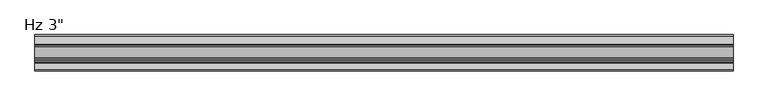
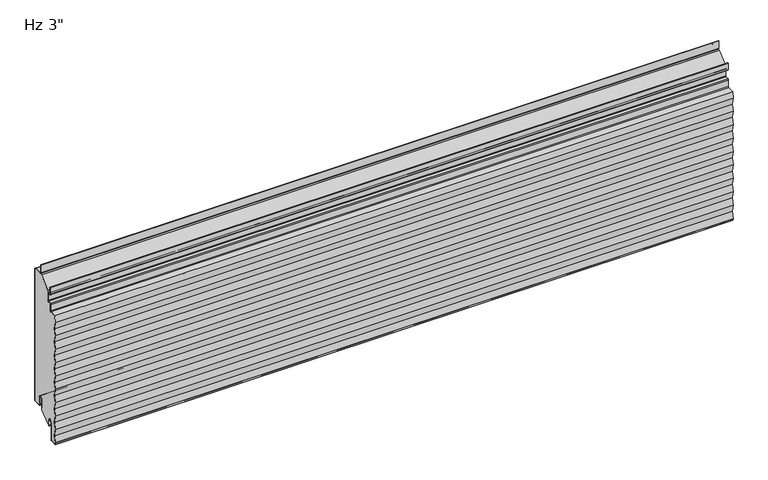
"""IFC4 building model written with IfcOpenShell, lengths in millimetres: plate geometry."""

from ifc_helpers import new_model, si_unit, point, frame, frame_2d, origin, place, context, project, spatial, polyline, circle_curve, ellipse_curve, trimmed, segment, composite_curve, outline, extrude, source, transform, mapped, element, save
from ifc_brep_helpers import plane_surface, cylinder_surface, revolved_surface, extruded_surface, advanced_brep


def plate_23679fd6(model_context):
    return source(origin(), model_context, "Body", "SolidModel", [
        extrude(outline(composite_curve([segment(trimmed(circle_curve(frame_2d((-21.43125, 19.05)), 4.96875), [point((-16.4625, 19.05))], [point((-26.4, 19.05))], True, "CARTESIAN"), True, "CONTINUOUS"), segment(polyline([(-26.4, 19.05), (-26.4, -3.1323422), (-49.2157227, -23.01875), (-50.8, -23.01875), (-50.8, -13.5080174), (-51.59375, -13.5080174), (-51.3875, -11.9205174)]), True, "CONTINUOUS"), segment(trimmed(circle_curve(frame_2d((-56.35625, -11.9205174)), 4.96875), [point((-51.3875, -11.9205174))], [point((-61.325, -11.9205174))], True, "CARTESIAN"), True, "CONTINUOUS"), segment(polyline([(-61.325, -11.9205174), (-61.325, -50.1038221)]), True, "CONTINUOUS"), segment(trimmed(circle_curve(frame_2d((-62.70625, -50.1038221)), 1.38125), [point((-61.325, -50.1038221))], [point((-62.633961, -51.4831791))], False, "CARTESIAN"), True, "CONTINUOUS"), segment(polyline([(-62.633961, -51.4831791), (-73.746461, -52.0655606)]), True, "CONTINUOUS"), segment(trimmed(circle_curve(frame_2d((-73.81875, -50.6862035)), 1.38125), [point((-73.746461, -52.0655606))], [point((-75.1310452, -51.1171708))], False, "CARTESIAN"), True, "CONTINUOUS"), segment(polyline([(-75.1310452, -51.1171708), (-75.4936034, -48.8511825), (-73.0552034, -33.6111825), (-75.4936034, -18.3711825), (-73.0552034, -3.1311825), (-75.4936034, 12.1088175), (-73.0552034, 27.3488175), (-75.4936034, 42.5888175), (-73.0552034, 57.8288175), (-75.4936034, 73.0688175), (-73.0552034, 88.3088175), (-75.4936034, 103.5488175), (-73.0552034, 118.7888175), (-75.4936034, 134.0288175), (-73.0552034, 149.2688175), (-75.4936034, 164.5088175), (-73.0552034, 179.7488175), (-75.4936034, 194.9888175), (-73.0552034, 210.2288175), (-75.4611926, 225.26625), (-73.41595, 238.0490161), (-60.1895807, 238.7421807)]), True, "CONTINUOUS"), segment(trimmed(circle_curve(frame_2d((-60.325, 241.3261347)), 2.5875), [point((-60.1895807, 238.7421807))], [point((-57.7375, 241.3261347))], True, "CARTESIAN"), True, "CONTINUOUS"), segment(polyline([(-57.7375, 241.3261347), (-57.7375, 255.4824411)]), True, "CONTINUOUS"), segment(trimmed(circle_curve(frame_2d((-56.35625, 255.4824411)), 1.38125), [point((-57.7375, 255.4824411))], [point((-56.428539, 256.8617981))], False, "CARTESIAN"), True, "CONTINUOUS"), segment(polyline([(-56.428539, 256.8617981), (-50.6645807, 257.1638744)]), True, "CONTINUOUS"), segment(trimmed(circle_curve(frame_2d((-50.8, 259.7478283)), 2.5875), [point((-50.6645807, 257.1638744))], [point((-48.2125, 259.7478283))], True, "CARTESIAN"), True, "CONTINUOUS"), segment(polyline([(-48.2125, 259.7478283), (-48.2125, 282.1892934), (-24.9057308, 303.00625), (-2.38125, 303.00625)]), True, "CONTINUOUS"), segment(trimmed(circle_curve(frame_2d((-2.38125, 301.625)), 1.38125), [point((-2.38125, 303.00625))], [point((-1.0, 301.625))], False, "CARTESIAN"), True, "CONTINUOUS"), segment(polyline([(-1.0, 301.625), (-1.0, 3.175)]), True, "CONTINUOUS"), segment(trimmed(circle_curve(frame_2d((-2.38125, 3.175)), 1.38125), [point((-1.0, 3.175))], [point((-2.38125, 1.79375))], False, "CARTESIAN"), True, "CONTINUOUS"), segment(polyline([(-2.38125, 1.79375), (-15.08125, 1.79375)]), True, "CONTINUOUS"), segment(trimmed(circle_curve(frame_2d((-15.08125, 3.175)), 1.38125), [point((-15.08125, 1.79375))], [point((-16.4625, 3.175))], False, "CARTESIAN"), True, "CONTINUOUS"), segment(polyline([(-16.4625, 3.175), (-16.4625, 19.05)]), True, "CONTINUOUS")], self_intersect=False)), frame((-730.0, 0.0, 0.0), z_axis=(1.0, 0.0, 0.0), x_axis=(0.0, 1.0, 0.0)), (0.0, 0.0, 1.0), 1460.0),
        extrude(outline(composite_curve([segment(polyline([(-25.4, 0.79375), (-26.4, 0.79375), (-26.4, 19.05)]), True, "CONTINUOUS"), segment(trimmed(circle_curve(frame_2d((-21.43125, 19.05)), 4.96875), [point((-26.4, 19.05))], [point((-16.4625, 19.05))], False, "CARTESIAN"), True, "CONTINUOUS"), segment(polyline([(-16.4625, 19.05), (-16.4625, 3.175)]), True, "CONTINUOUS"), segment(trimmed(circle_curve(frame_2d((-15.08125, 3.175)), 1.38125), [point((-16.4625, 3.175))], [point((-15.08125, 1.79375))], True, "CARTESIAN"), True, "CONTINUOUS"), segment(polyline([(-15.08125, 1.79375), (-2.38125, 1.79375)]), True, "CONTINUOUS"), segment(trimmed(circle_curve(frame_2d((-2.38125, 3.175)), 1.38125), [point((-2.38125, 1.79375))], [point((-1.0, 3.175))], True, "CARTESIAN"), True, "CONTINUOUS"), segment(polyline([(-1.0, 3.175), (-1.0, 301.625)]), True, "CONTINUOUS"), segment(trimmed(circle_curve(frame_2d((-2.38125, 301.625)), 1.38125), [point((-1.0, 301.625))], [point((-2.38125, 303.00625))], True, "CARTESIAN"), True, "CONTINUOUS"), segment(polyline([(-2.38125, 303.00625), (-19.446875, 303.00625)]), True, "CONTINUOUS"), segment(trimmed(circle_curve(frame_2d((-19.446875, 305.59375)), 2.5875), [point((-19.446875, 303.00625))], [point((-22.034375, 305.59375))], False, "CARTESIAN"), True, "CONTINUOUS"), segment(polyline([(-22.034375, 305.59375), (-22.034375, 323.05625), (-21.034375, 323.05625), (-21.034375, 305.59375)]), True, "CONTINUOUS"), segment(trimmed(circle_curve(frame_2d((-19.446875, 305.59375)), 1.5875), [point((-21.034375, 305.59375))], [point((-19.446875, 304.00625))], True, "CARTESIAN"), True, "CONTINUOUS"), segment(polyline([(-19.446875, 304.00625), (-2.38125, 304.00625)]), True, "CONTINUOUS"), segment(trimmed(circle_curve(frame_2d((-2.38125, 301.625)), 2.38125), [point((-2.38125, 304.00625))], [point((0.0, 301.625))], False, "CARTESIAN"), True, "CONTINUOUS"), segment(polyline([(0.0, 301.625), (0.0, 3.175)]), True, "CONTINUOUS"), segment(trimmed(circle_curve(frame_2d((-2.38125, 3.175)), 2.38125), [point((0.0, 3.175))], [point((-2.38125, 0.79375))], False, "CARTESIAN"), True, "CONTINUOUS"), segment(polyline([(-2.38125, 0.79375), (-15.08125, 0.79375)]), True, "CONTINUOUS"), segment(trimmed(circle_curve(frame_2d((-15.08125, 3.175)), 2.38125), [point((-15.08125, 0.79375))], [point((-17.4625, 3.175))], False, "CARTESIAN"), True, "CONTINUOUS"), segment(polyline([(-17.4625, 3.175), (-17.4625, 19.05)]), True, "CONTINUOUS"), segment(trimmed(circle_curve(frame_2d((-21.43125, 19.05)), 3.96875), [point((-17.4625, 19.05))], [point((-25.4, 19.05))], True, "CARTESIAN"), True, "CONTINUOUS"), segment(polyline([(-25.4, 19.05), (-25.4, 0.79375)]), True, "CONTINUOUS")], self_intersect=False)), frame((-730.0, 0.0, 0.0), z_axis=(1.0, 0.0, 0.0), x_axis=(0.0, 1.0, 0.0)), (0.0, 0.0, 1.0), 1460.0),
        advanced_brep(
        [(-730.0, -50.8, -23.2314549), (-730.0, -52.3875, -23.2314549), (-730.0, -52.3875, -11.9205174), (-730.0, -60.325, -11.9205174), (-730.0, -60.325, -50.1038221), (-730.0, -62.581625, -52.4818086), (-730.0, -75.513818, -53.1595562), (-730.0, -76.2, -48.8709186), (-730.0, -73.7616, -33.6309186), (-730.0, -76.2, -18.3909186), (-730.0, -73.7616, -3.1509186), (-730.0, -76.2, 12.0890814), (-730.0, -73.7616, 27.3290814), (-730.0, -76.2, 42.5690814), (-730.0, -73.7616, 57.8090814), (-730.0, -76.2, 73.0490814), (-730.0, -73.7616, 88.2890814), (-730.0, -76.2, 103.5290814), (-730.0, -73.7616, 118.7690814), (-730.0, -76.2, 134.0090814), (-730.0, -73.7616, 149.2490814), (-730.0, -76.2, 164.4890814), (-730.0, -73.7616, 179.7290814), (-730.0, -76.2, 194.9690814), (-730.0, -73.7616, 210.2090814), (-730.0, -76.1837946, 225.3477976), (-730.0, -74.0289309, 239.0182635), (-730.0, -60.2419167, 239.7408103), (-730.0, -58.7375, 241.3261347), (-730.0, -58.7375, 255.4824411), (-730.0, -56.480875, 257.8604276), (-730.0, -50.7169167, 258.1625039), (-730.0, -49.2125, 259.7478283), (-730.0, -49.2125, 274.6232326), (-730.0, -50.8, 276.2107326), (-730.0, -54.9671875, 276.2107326), (-730.0, -57.3484375, 278.5919826), (-730.0, -57.3484375, 293.0836032), (-730.0, -55.5546875, 293.0836032), (-730.0, -55.5546875, 283.3544826), (-730.0, -56.3484375, 283.3544826), (-730.0, -56.3484375, 278.5919826), (-730.0, -54.9671875, 277.2107326), (-730.0, -50.8, 277.2107326), (-730.0, -48.2125, 274.6232326), (-730.0, -48.2125, 259.7478283), (-730.0, -50.6645807, 257.1638744), (-730.0, -56.428539, 256.8617981), (-730.0, -57.7375, 255.4824411), (-730.0, -57.7375, 241.3261347), (-730.0, -60.1895807, 238.7421807), (-730.0, -73.1692225, 238.0619465), (-730.0, -75.1872809, 225.4490814), (-730.0, -72.7488809, 210.2090814), (-730.0, -75.1872809, 194.9690814), (-730.0, -72.7488809, 179.7290814), (-730.0, -75.1872809, 164.4890814), (-730.0, -72.7488809, 149.2490814), (-730.0, -75.1872809, 134.0090814), (-730.0, -72.7488809, 118.7690814), (-730.0, -75.1872809, 103.5290814), (-730.0, -72.7488809, 88.2890814), (-730.0, -75.1872809, 73.0490814), (-730.0, -72.7488809, 57.8090814), (-730.0, -75.1872809, 42.5690814), (-730.0, -72.7488809, 27.3290814), (-730.0, -75.1872809, 12.0890814), (-730.0, -72.7488809, -3.1509186), (-730.0, -75.1872809, -18.3909186), (-730.0, -72.7488809, -33.6309186), (-730.0, -75.1872809, -48.8709186), (-730.0, -74.6684074, -52.1138777), (-730.0, -62.633961, -51.4831791), (-730.0, -61.325, -50.1038221), (-730.0, -61.325, -11.9205174), (-730.0, -51.3875, -11.9205174), (-730.0, -51.59375, -13.5080174), (-730.0, -50.8, -13.5080174), (730.0, -50.8, -23.2314549), (730.0, -50.8, -13.5080174), (730.0, -51.59375, -13.5080174), (730.0, -51.3875, -11.9205174), (730.0, -61.325, -11.9205174), (730.0, -61.325, -50.1038221), (730.0, -62.633961, -51.4831791), (730.0, -74.6684074, -52.1138777), (730.0, -75.1872809, -48.8709186), (730.0, -72.7488809, -33.6309186), (730.0, -75.1872809, -18.3909186), (730.0, -72.7488809, -3.1509186), (730.0, -75.1872809, 12.0890814), (730.0, -72.7488809, 27.3290814), (730.0, -75.1872809, 42.5690814), (730.0, -72.7488809, 57.8090814), (730.0, -75.1872809, 73.0490814), (730.0, -72.7488809, 88.2890814), (730.0, -75.1872809, 103.5290814), (730.0, -72.7488809, 118.7690814), (730.0, -75.1872809, 134.0090814), (730.0, -72.7488809, 149.2490814), (730.0, -75.1872809, 164.4890814), (730.0, -72.7488809, 179.7290814), (730.0, -75.1872809, 194.9690814), (730.0, -72.7488809, 210.2090814), (730.0, -75.1710755, 225.3477976), (730.0, -73.1692225, 238.0619465), (730.0, -60.1895807, 238.7421807), (730.0, -57.7375, 241.3261347), (730.0, -57.7375, 255.4824411), (730.0, -56.428539, 256.8617981), (730.0, -50.6645807, 257.1638744), (730.0, -48.2125, 259.7478283), (730.0, -48.2125, 274.6232326), (730.0, -50.8, 277.2107326), (730.0, -54.9671875, 277.2107326), (730.0, -56.3484375, 278.5919826), (730.0, -56.3484375, 283.3544826), (730.0, -55.5546875, 283.3544826), (730.0, -55.5546875, 293.0836032), (730.0, -57.3484375, 293.0836032), (730.0, -57.3484375, 278.5919826), (730.0, -54.9671875, 276.2107326), (730.0, -50.8, 276.2107326), (730.0, -49.2125, 274.6232326), (730.0, -49.2125, 259.7478283), (730.0, -50.7169167, 258.1625039), (730.0, -56.480875, 257.8604276), (730.0, -58.7375, 255.4824411), (730.0, -58.7375, 241.3261347), (730.0, -60.2419167, 239.7408103), (730.0, -74.0289309, 239.0182635), (730.0, -76.2, 225.4490814), (730.0, -73.7616, 210.2090814), (730.0, -76.2, 194.9690814), (730.0, -73.7616, 179.7290814), (730.0, -76.2, 164.4890814), (730.0, -73.7616, 149.2490814), (730.0, -76.2, 134.0090814), (730.0, -73.7616, 118.7690814), (730.0, -76.2, 103.5290814), (730.0, -73.7616, 88.2890814), (730.0, -76.2, 73.0490814), (730.0, -73.7616, 57.8090814), (730.0, -76.2, 42.5690814), (730.0, -73.7616, 27.3290814), (730.0, -76.2, 12.0890814), (730.0, -73.7616, -3.1509186), (730.0, -76.2, -18.3909186), (730.0, -73.7616, -33.6309186), (730.0, -76.2, -48.8709186), (730.0, -75.513818, -53.1595562), (730.0, -62.581625, -52.4818086), (730.0, -60.325, -50.1038221), (730.0, -60.325, -11.9205174), (730.0, -52.3875, -11.9205174), (730.0, -52.3875, -23.2314549)],
        [
            (0, 1, circle_curve(frame((-730.0, -51.59375, -23.2314549), z_axis=(-1.0, 0.0, 0.0), x_axis=(0.0, 0.0, 1.0)), 0.79375)),
            (1, 2),
            (2, 3, circle_curve(frame((-730.0, -56.35625, -11.9205174), z_axis=(1.0, 0.0, 0.0), x_axis=(0.0, 0.0, 1.0)), 3.96875)),
            (3, 4),
            (4, 5, circle_curve(frame((-730.0, -62.70625, -50.1038221), z_axis=(-1.0, 0.0, 0.0), x_axis=(0.0, 0.0, 1.0)), 2.38125)),
            (5, 6),
            (6, 7),
            (7, 8),
            (8, 9),
            (9, 10),
            (10, 11),
            (11, 12),
            (12, 13),
            (13, 14),
            (14, 15),
            (15, 16),
            (16, 17),
            (17, 18),
            (18, 19),
            (19, 20),
            (20, 21),
            (21, 22),
            (22, 23),
            (23, 24),
            (24, 25),
            (25, 26),
            (26, 27),
            (27, 28, circle_curve(frame((-730.0, -60.325, 241.3261347), z_axis=(1.0, 0.0, 0.0), x_axis=(0.0, 0.0, 1.0)), 1.5875)),
            (28, 29),
            (29, 30, circle_curve(frame((-730.0, -56.35625, 255.4824411), z_axis=(-1.0, 0.0, 0.0), x_axis=(0.0, 0.0, 1.0)), 2.38125)),
            (30, 31),
            (31, 32, circle_curve(frame((-730.0, -50.8, 259.7478283), z_axis=(1.0, 0.0, 0.0), x_axis=(0.0, 0.0, 1.0)), 1.5875)),
            (32, 33),
            (33, 34, circle_curve(frame((-730.0, -50.8, 274.6232326), z_axis=(1.0, 0.0, 0.0), x_axis=(0.0, 0.0, 1.0)), 1.5875)),
            (34, 35),
            (35, 36, circle_curve(frame((-730.0, -54.9671875, 278.5919826), z_axis=(-1.0, 0.0, 0.0), x_axis=(0.0, 0.0, 1.0)), 2.38125)),
            (36, 37),
            (37, 38, ellipse_curve(frame((-730.0, -56.4515625, 293.0836032), z_axis=(-1.0, 0.0, 0.0), x_axis=(0.0, 1.0, 0.0)), 0.896875, 0.7852275)),
            (38, 39),
            (39, 40),
            (40, 41),
            (41, 42, circle_curve(frame((-730.0, -54.9671875, 278.5919826), z_axis=(1.0, 0.0, 0.0), x_axis=(0.0, 0.0, 1.0)), 1.38125)),
            (42, 43),
            (43, 44, circle_curve(frame((-730.0, -50.8, 274.6232326), z_axis=(-1.0, 0.0, 0.0), x_axis=(0.0, 0.0, 1.0)), 2.5875)),
            (44, 45),
            (45, 46, circle_curve(frame((-730.0, -50.8, 259.7478283), z_axis=(-1.0, 0.0, 0.0), x_axis=(0.0, 0.0, 1.0)), 2.5875)),
            (46, 47),
            (47, 48, circle_curve(frame((-730.0, -56.35625, 255.4824411), z_axis=(1.0, 0.0, 0.0), x_axis=(0.0, 0.0, 1.0)), 1.38125)),
            (48, 49),
            (49, 50, circle_curve(frame((-730.0, -60.325, 241.3261347), z_axis=(-1.0, 0.0, 0.0), x_axis=(0.0, 0.0, 1.0)), 2.5875)),
            (50, 51),
            (51, 52),
            (52, 53),
            (53, 54),
            (54, 55),
            (55, 56),
            (56, 57),
            (57, 58),
            (58, 59),
            (59, 60),
            (60, 61),
            (61, 62),
            (62, 63),
            (63, 64),
            (64, 65),
            (65, 66),
            (66, 67),
            (67, 68),
            (68, 69),
            (69, 70),
            (70, 71),
            (71, 72),
            (72, 73, circle_curve(frame((-730.0, -62.70625, -50.1038221), z_axis=(1.0, 0.0, 0.0), x_axis=(0.0, 0.0, 1.0)), 1.38125)),
            (73, 74),
            (74, 75, circle_curve(frame((-730.0, -56.35625, -11.9205174), z_axis=(-1.0, 0.0, 0.0), x_axis=(0.0, 0.0, 1.0)), 4.96875)),
            (75, 76),
            (76, 77),
            (77, 0),
            (78, 79),
            (79, 80),
            (80, 81),
            (81, 82, circle_curve(frame((730.0, -56.35625, -11.9205174), z_axis=(1.0, 0.0, 0.0), x_axis=(0.0, 0.0, 1.0)), 4.96875)),
            (82, 83),
            (83, 84, circle_curve(frame((730.0, -62.70625, -50.1038221), z_axis=(-1.0, 0.0, 0.0), x_axis=(0.0, 0.0, 1.0)), 1.38125)),
            (84, 85),
            (85, 86),
            (86, 87),
            (87, 88),
            (88, 89),
            (89, 90),
            (90, 91),
            (91, 92),
            (92, 93),
            (93, 94),
            (94, 95),
            (95, 96),
            (96, 97),
            (97, 98),
            (98, 99),
            (99, 100),
            (100, 101),
            (101, 102),
            (102, 103),
            (103, 104),
            (104, 105),
            (105, 106),
            (106, 107, circle_curve(frame((730.0, -60.325, 241.3261347), z_axis=(1.0, 0.0, 0.0), x_axis=(0.0, 0.0, 1.0)), 2.5875)),
            (107, 108),
            (108, 109, circle_curve(frame((730.0, -56.35625, 255.4824411), z_axis=(-1.0, 0.0, 0.0), x_axis=(0.0, 0.0, 1.0)), 1.38125)),
            (109, 110),
            (110, 111, circle_curve(frame((730.0, -50.8, 259.7478283), z_axis=(1.0, 0.0, 0.0), x_axis=(0.0, 0.0, 1.0)), 2.5875)),
            (111, 112),
            (112, 113, circle_curve(frame((730.0, -50.8, 274.6232326), z_axis=(1.0, 0.0, 0.0), x_axis=(0.0, 0.0, 1.0)), 2.5875)),
            (113, 114),
            (114, 115, circle_curve(frame((730.0, -54.9671875, 278.5919826), z_axis=(-1.0, 0.0, 0.0), x_axis=(0.0, 0.0, 1.0)), 1.38125)),
            (115, 116),
            (116, 117),
            (117, 118),
            (118, 119, ellipse_curve(frame((730.0, -56.4515625, 293.0836032), z_axis=(1.0, 0.0, 0.0), x_axis=(0.0, 1.0, 0.0)), 0.896875, 0.7852275)),
            (119, 120),
            (120, 121, circle_curve(frame((730.0, -54.9671875, 278.5919826), z_axis=(1.0, 0.0, 0.0), x_axis=(0.0, 0.0, 1.0)), 2.38125)),
            (121, 122),
            (122, 123, circle_curve(frame((730.0, -50.8, 274.6232326), z_axis=(-1.0, 0.0, 0.0), x_axis=(0.0, 0.0, 1.0)), 1.5875)),
            (123, 124),
            (124, 125, circle_curve(frame((730.0, -50.8, 259.7478283), z_axis=(-1.0, 0.0, 0.0), x_axis=(0.0, 0.0, 1.0)), 1.5875)),
            (125, 126),
            (126, 127, circle_curve(frame((730.0, -56.35625, 255.4824411), z_axis=(1.0, 0.0, 0.0), x_axis=(0.0, 0.0, 1.0)), 2.38125)),
            (127, 128),
            (128, 129, circle_curve(frame((730.0, -60.325, 241.3261347), z_axis=(-1.0, 0.0, 0.0), x_axis=(0.0, 0.0, 1.0)), 1.5875)),
            (129, 130),
            (130, 131),
            (131, 132),
            (132, 133),
            (133, 134),
            (134, 135),
            (135, 136),
            (136, 137),
            (137, 138),
            (138, 139),
            (139, 140),
            (140, 141),
            (141, 142),
            (142, 143),
            (143, 144),
            (144, 145),
            (145, 146),
            (146, 147),
            (147, 148),
            (148, 149),
            (149, 150),
            (150, 151),
            (151, 152, circle_curve(frame((730.0, -62.70625, -50.1038221), z_axis=(1.0, 0.0, 0.0), x_axis=(0.0, 0.0, 1.0)), 2.38125)),
            (152, 153),
            (153, 154, circle_curve(frame((730.0, -56.35625, -11.9205174), z_axis=(-1.0, 0.0, 0.0), x_axis=(0.0, 0.0, 1.0)), 3.96875)),
            (154, 155),
            (155, 78, circle_curve(frame((730.0, -51.59375, -23.2314549), z_axis=(1.0, 0.0, 0.0), x_axis=(0.0, 0.0, 1.0)), 0.79375)),
            (56, 100),
            (99, 57),
            (98, 58),
            (97, 59),
            (71, 85),
            (84, 72),
            (83, 73),
            (82, 74),
            (81, 75),
            (76, 80),
            (79, 77),
            (39, 117),
            (116, 40),
            (38, 118),
            (37, 119),
            (26, 130),
            (129, 27),
            (50, 106),
            (105, 51),
            (24, 132),
            (131, 25),
            (52, 104),
            (103, 53),
            (102, 54),
            (101, 55),
            (21, 135),
            (134, 22),
            (133, 23),
            (20, 136),
            (18, 138),
            (137, 19),
            (16, 140),
            (139, 17),
            (14, 142),
            (141, 15),
            (12, 144),
            (143, 13),
            (10, 146),
            (145, 11),
            (8, 148),
            (147, 9),
            (6, 150),
            (149, 7),
            (69, 87),
            (86, 70),
            (67, 89),
            (88, 68),
            (65, 91),
            (90, 66),
            (63, 93),
            (92, 64),
            (61, 95),
            (94, 62),
            (96, 60),
            (49, 107),
            (47, 109),
            (108, 48),
            (45, 111),
            (110, 46),
            (41, 115),
            (114, 42),
            (43, 113),
            (112, 44),
            (36, 120),
            (34, 122),
            (121, 35),
            (32, 124),
            (123, 33),
            (30, 126),
            (125, 31),
            (28, 128),
            (127, 29),
            (5, 151),
            (3, 153),
            (152, 4),
            (1, 155),
            (154, 2),
            (78, 0),
        ],
        [
            plane_surface(frame((-730.0, -76.2, 152.4), z_axis=(-1.0, 0.0, 0.0), x_axis=(0.0, -1.0, 0.0))),
            plane_surface(frame((730.0, -76.2, 152.4), z_axis=(1.0, 0.0, 0.0), x_axis=(0.0, -1.0, 0.0))),
            plane_surface(frame((-730.0, -72.7488809, 149.2490814), z_axis=(0.0, 0.9874406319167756, 0.15799050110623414), x_axis=(1.0, 0.0, 0.0))),
            plane_surface(frame((-730.0, -75.1872809, 134.0090814), z_axis=(0.0, 0.987440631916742, -0.15799050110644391), x_axis=(1.0, 0.0, 0.0))),
            plane_surface(frame((-730.0, -72.7488809, 118.7690814), z_axis=(0.0, 0.987440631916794, 0.1579905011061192), x_axis=(1.0, 0.0, 0.0))),
            plane_surface(frame((-730.0, -62.633961, -51.4831791), z_axis=(0.0, -0.052335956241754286, 0.9986295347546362), x_axis=(1.0, 0.0, 0.0))),
            revolved_surface(polyline([(730.0, -62.70625, -48.7225721), (-730.0, -62.70625, -48.7225721)]), (-730.0, -62.70625, -50.1038221), (1.0, 0.0, 0.0)),
            plane_surface(frame((-730.0, -61.325, -11.9205174), z_axis=(0.0, -1.0, 0.0), x_axis=(1.0, 0.0, 0.0))),
            cylinder_surface(frame((-730.0, -56.35625, -11.9205174), z_axis=(-1.0, 0.0, 0.0), x_axis=(0.0, 0.0, 1.0)), 4.96875),
            plane_surface(frame((-730.0, -50.8, -13.5080174), z_axis=(0.0, 0.0, 1.0), x_axis=(1.0, 0.0, 0.0))),
            plane_surface(frame((-730.0, -51.59375, -13.5080174), z_axis=(0.0, 0.9916655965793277, -0.12883844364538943), x_axis=(1.0, 0.0, 0.0))),
            plane_surface(frame((-730.0, -56.3484375, 283.3544826), z_axis=(0.0, 0.0, -1.0), x_axis=(1.0, 0.0, 0.0))),
            plane_surface(frame((-730.0, -55.5546875, 283.3544826), z_axis=(0.0, 1.0, 0.0), x_axis=(1.0, 0.0, 0.0))),
            extruded_surface(trimmed(ellipse_curve(frame((-730.0, -56.4515625, 293.0836032), z_axis=(1.0, 0.0, 0.0), x_axis=(0.0, 1.0, 0.0)), 0.896875, 0.7852275), [point((-730.0, -55.5546875, 293.0836032))], [point((-730.0, -57.3484375, 293.0836032))], True, "CARTESIAN"), (1460.0, 0.0, 0.0), 1460.0),
            plane_surface(frame((-730.0, -60.2419167, 239.7408103), z_axis=(0.0, -0.052335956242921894, 0.998629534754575), x_axis=(1.0, 0.0, 0.0))),
            plane_surface(frame((-730.0, -73.1692225, 238.0619465), z_axis=(0.0, 0.05233595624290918, -0.9986295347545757), x_axis=(1.0, 0.0, 0.0))),
            plane_surface(frame((-730.0, -76.1837946, 225.3477976), z_axis=(0.0, -0.9874406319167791, -0.15799050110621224), x_axis=(1.0, 0.0, 0.0))),
            plane_surface(frame((-730.0, -72.7488809, 210.2090814), z_axis=(0.0, 0.9874406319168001, 0.15799050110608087), x_axis=(1.0, 0.0, 0.0))),
            plane_surface(frame((-730.0, -75.1872809, 194.9690814), z_axis=(0.0, 0.9874406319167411, -0.15799050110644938), x_axis=(1.0, 0.0, 0.0))),
            plane_surface(frame((-730.0, -72.7488809, 179.7290814), z_axis=(0.0, 0.987440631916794, 0.1579905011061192), x_axis=(1.0, 0.0, 0.0))),
            plane_surface(frame((-730.0, -75.1872809, 164.4890814), z_axis=(0.0, 0.987440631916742, -0.15799050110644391), x_axis=(1.0, 0.0, 0.0))),
            plane_surface(frame((-730.0, -73.7616, 179.7290814), z_axis=(0.0, -0.9874406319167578, 0.15799050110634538), x_axis=(1.0, 0.0, 0.0))),
            plane_surface(frame((-730.0, -76.2, 194.9690814), z_axis=(0.0, -0.9874406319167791, -0.15799050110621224), x_axis=(1.0, 0.0, 0.0))),
            plane_surface(frame((-730.0, -73.7616, 210.2090814), z_axis=(0.0, -0.9874406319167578, 0.15799050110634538), x_axis=(1.0, 0.0, 0.0))),
            plane_surface(frame((-730.0, -75.1872809, 225.4490814), z_axis=(0.0, 0.9874406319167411, -0.15799050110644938), x_axis=(1.0, 0.0, 0.0))),
            plane_surface(frame((-730.0, -74.0289309, 239.0182635), z_axis=(0.0, -0.9874406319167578, 0.15799050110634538), x_axis=(1.0, 0.0, 0.0))),
            plane_surface(frame((-730.0, -76.2, 164.4890814), z_axis=(0.0, -0.9874406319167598, -0.15799050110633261), x_axis=(1.0, 0.0, 0.0))),
            plane_surface(frame((-730.0, -76.2, 134.0090814), z_axis=(0.0, -0.9874406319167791, -0.15799050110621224), x_axis=(1.0, 0.0, 0.0))),
            plane_surface(frame((-730.0, -73.7616, 149.2490814), z_axis=(0.0, -0.9874406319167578, 0.15799050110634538), x_axis=(1.0, 0.0, 0.0))),
            plane_surface(frame((-730.0, -76.2, 103.5290814), z_axis=(0.0, -0.9874406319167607, -0.15799050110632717), x_axis=(1.0, 0.0, 0.0))),
            plane_surface(frame((-730.0, -76.2, 73.0490814), z_axis=(0.0, -0.9874406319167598, -0.15799050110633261), x_axis=(1.0, 0.0, 0.0))),
            plane_surface(frame((-730.0, -73.7616, 88.2890814), z_axis=(0.0, -0.9874406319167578, 0.15799050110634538), x_axis=(1.0, 0.0, 0.0))),
            plane_surface(frame((-730.0, -73.7616, 118.7690814), z_axis=(0.0, -0.9874406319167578, 0.15799050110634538), x_axis=(1.0, 0.0, 0.0))),
            plane_surface(frame((-730.0, -76.2, 42.5690814), z_axis=(0.0, -0.9874406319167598, -0.15799050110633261), x_axis=(1.0, 0.0, 0.0))),
            plane_surface(frame((-730.0, -76.2, 12.0890814), z_axis=(0.0, -0.9874406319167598, -0.15799050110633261), x_axis=(1.0, 0.0, 0.0))),
            plane_surface(frame((-730.0, -73.7616, 27.3290814), z_axis=(0.0, -0.9874406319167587, 0.15799050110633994), x_axis=(1.0, 0.0, 0.0))),
            plane_surface(frame((-730.0, -73.7616, 57.8090814), z_axis=(0.0, -0.9874406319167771, 0.157990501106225), x_axis=(1.0, 0.0, 0.0))),
            plane_surface(frame((-730.0, -76.2, -18.3909186), z_axis=(0.0, -0.9874406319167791, -0.15799050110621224), x_axis=(1.0, 0.0, 0.0))),
            plane_surface(frame((-730.0, -76.2, -48.8709186), z_axis=(0.0, -0.9874406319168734, -0.15799050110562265), x_axis=(1.0, 0.0, 0.0))),
            plane_surface(frame((-730.0, -73.7616, -33.6309186), z_axis=(0.0, -0.9874406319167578, 0.15799050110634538), x_axis=(1.0, 0.0, 0.0))),
            plane_surface(frame((-730.0, -73.7616, -3.1509186), z_axis=(0.0, -0.9874406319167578, 0.15799050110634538), x_axis=(1.0, 0.0, 0.0))),
            plane_surface(frame((-730.0, -75.1872809, -48.8709186), z_axis=(0.0, 0.9874406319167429, -0.15799050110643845), x_axis=(1.0, 0.0, 0.0))),
            plane_surface(frame((-730.0, -75.1872809, -18.3909186), z_axis=(0.0, 0.987440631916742, -0.15799050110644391), x_axis=(1.0, 0.0, 0.0))),
            plane_surface(frame((-730.0, -72.7488809, -33.6309186), z_axis=(0.0, 0.987440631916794, 0.1579905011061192), x_axis=(1.0, 0.0, 0.0))),
            plane_surface(frame((-730.0, -74.6684074, -52.1138777), z_axis=(0.0, 0.987440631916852, 0.1579905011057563), x_axis=(1.0, 0.0, 0.0))),
            plane_surface(frame((-730.0, -75.1872809, 12.0890814), z_axis=(0.0, 0.987440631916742, -0.15799050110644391), x_axis=(1.0, 0.0, 0.0))),
            plane_surface(frame((-730.0, -75.1872809, 42.5690814), z_axis=(0.0, 0.9874406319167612, -0.1579905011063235), x_axis=(1.0, 0.0, 0.0))),
            plane_surface(frame((-730.0, -72.7488809, 27.3290814), z_axis=(0.0, 0.9874406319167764, 0.15799050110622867), x_axis=(1.0, 0.0, 0.0))),
            plane_surface(frame((-730.0, -72.7488809, -3.1509186), z_axis=(0.0, 0.9874406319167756, 0.15799050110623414), x_axis=(1.0, 0.0, 0.0))),
            plane_surface(frame((-730.0, -75.1872809, 73.0490814), z_axis=(0.0, 0.9874406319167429, -0.15799050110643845), x_axis=(1.0, 0.0, 0.0))),
            plane_surface(frame((-730.0, -75.1872809, 103.5290814), z_axis=(0.0, 0.987440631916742, -0.15799050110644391), x_axis=(1.0, 0.0, 0.0))),
            plane_surface(frame((-730.0, -72.7488809, 88.2890814), z_axis=(0.0, 0.9874406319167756, 0.15799050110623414), x_axis=(1.0, 0.0, 0.0))),
            plane_surface(frame((-730.0, -72.7488809, 57.8090814), z_axis=(0.0, 0.9874406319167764, 0.15799050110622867), x_axis=(1.0, 0.0, 0.0))),
            cylinder_surface(frame((-730.0, -60.325, 241.3261347), z_axis=(-1.0, 0.0, 0.0), x_axis=(0.0, 0.0, 1.0)), 2.5875),
            revolved_surface(polyline([(730.0, -56.35625, 256.8636911), (-730.0, -56.35625, 256.8636911)]), (-730.0, -56.35625, 255.4824411), (1.0, 0.0, 0.0)),
            cylinder_surface(frame((-730.0, -50.8, 259.7478283), z_axis=(-1.0, 0.0, 0.0), x_axis=(0.0, 0.0, 1.0)), 2.5875),
            plane_surface(frame((-730.0, -56.428539, 256.8617981), z_axis=(0.0, 0.0523359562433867, -0.9986295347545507), x_axis=(1.0, 0.0, 0.0))),
            plane_surface(frame((-730.0, -57.7375, 241.3261347), z_axis=(0.0, 1.0, 0.0), x_axis=(1.0, 0.0, 0.0))),
            revolved_surface(polyline([(730.0, -54.9671875, 279.9732326), (-730.0, -54.9671875, 279.9732326)]), (-730.0, -54.9671875, 278.5919826), (1.0, 0.0, 0.0)),
            cylinder_surface(frame((-730.0, -50.8, 274.6232326), z_axis=(-1.0, 0.0, 0.0), x_axis=(0.0, 0.0, 1.0)), 2.5875),
            plane_surface(frame((-730.0, -50.8, 277.2107326), z_axis=(0.0, 0.0, 1.0), x_axis=(1.0, 0.0, 0.0))),
            plane_surface(frame((-730.0, -56.3484375, 278.5919826), z_axis=(0.0, 1.0, 0.0), x_axis=(1.0, 0.0, 0.0))),
            plane_surface(frame((-730.0, -57.3484375, 293.0836032), z_axis=(0.0, -1.0, 0.0), x_axis=(1.0, 0.0, 0.0))),
            plane_surface(frame((-730.0, -54.9671875, 276.2107326), z_axis=(0.0, 0.0, -1.0), x_axis=(1.0, 0.0, 0.0))),
            cylinder_surface(frame((-730.0, -54.9671875, 278.5919826), z_axis=(-1.0, 0.0, 0.0), x_axis=(0.0, 0.0, 1.0)), 2.38125),
            plane_surface(frame((-730.0, -48.2125, 259.7478283), z_axis=(0.0, 1.0, 0.0), x_axis=(1.0, 0.0, 0.0))),
            plane_surface(frame((-730.0, -49.2125, 274.6232326), z_axis=(0.0, -1.0, 0.0), x_axis=(1.0, 0.0, 0.0))),
            plane_surface(frame((-730.0, -50.7169167, 258.1625039), z_axis=(0.0, -0.052335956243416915, 0.9986295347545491), x_axis=(1.0, 0.0, 0.0))),
            revolved_surface(polyline([(730.0, -50.8, 261.33532829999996), (-730.0, -50.8, 261.33532829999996)]), (-730.0, -50.8, 259.7478283), (1.0, 0.0, 0.0)),
            revolved_surface(polyline([(730.0, -50.8, 276.2107326), (-730.0, -50.8, 276.2107326)]), (-730.0, -50.8, 274.6232326), (1.0, 0.0, 0.0)),
            plane_surface(frame((-730.0, -58.7375, 255.4824411), z_axis=(0.0, -1.0, 0.0), x_axis=(1.0, 0.0, 0.0))),
            revolved_surface(polyline([(730.0, -60.325, 242.91363470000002), (-730.0, -60.325, 242.91363470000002)]), (-730.0, -60.325, 241.3261347), (1.0, 0.0, 0.0)),
            cylinder_surface(frame((-730.0, -56.35625, 255.4824411), z_axis=(-1.0, 0.0, 0.0), x_axis=(0.0, 0.0, 1.0)), 2.38125),
            plane_surface(frame((-730.0, -75.513818, -53.1595562), z_axis=(0.0, 0.052335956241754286, -0.9986295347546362), x_axis=(1.0, 0.0, 0.0))),
            plane_surface(frame((-730.0, -60.325, -50.1038221), z_axis=(0.0, 1.0, 0.0), x_axis=(1.0, 0.0, 0.0))),
            plane_surface(frame((-730.0, -52.3875, -11.9205174), z_axis=(0.0, -1.0, 0.0), x_axis=(1.0, 0.0, 0.0))),
            revolved_surface(polyline([(730.0, -56.35625, -7.9517674), (-730.0, -56.35625, -7.9517674)]), (-730.0, -56.35625, -11.9205174), (1.0, 0.0, 0.0)),
            cylinder_surface(frame((-730.0, -62.70625, -50.1038221), z_axis=(-1.0, 0.0, 0.0), x_axis=(0.0, 0.0, 1.0)), 2.38125),
            plane_surface(frame((-730.0, -50.8, -23.2314549), z_axis=(0.0, 1.0, 0.0), x_axis=(1.0, 0.0, 0.0))),
            cylinder_surface(frame((-730.0, -51.59375, -23.2314549), z_axis=(-1.0, 0.0, 0.0), x_axis=(0.0, 0.0, 1.0)), 0.79375),
        ],
        [
            (0, [[1, 2, 3, 4, 5, 6, 7, 8, 9, 10, 11, 12, 13, 14, 15, 16, 17, 18, 19, 20, 21, 22, 23, 24, 25, 26, 27, 28, 29, 30, 31, 32, 33, 34, 35, 36, 37, 38, 39, 40, 41, 42, 43, 44, 45, 46, 47, 48, 49, 50, 51, 52, 53, 54, 55, 56, 57, 58, 59, 60, 61, 62, 63, 64, 65, 66, 67, 68, 69, 70, 71, 72, 73, 74, 75, 76, 77, 78]]),
            (1, [[79, 80, 81, 82, 83, 84, 85, 86, 87, 88, 89, 90, 91, 92, 93, 94, 95, 96, 97, 98, 99, 100, 101, 102, 103, 104, 105, 106, 107, 108, 109, 110, 111, 112, 113, 114, 115, 116, 117, 118, 119, 120, 121, 122, 123, 124, 125, 126, 127, 128, 129, 130, 131, 132, 133, 134, 135, 136, 137, 138, 139, 140, 141, 142, 143, 144, 145, 146, 147, 148, 149, 150, 151, 152, 153, 154, 155, 156]]),
            (2, [[157, -100, 158, -57]]),
            (3, [[-158, -99, 159, -58]]),
            (4, [[-159, -98, 160, -59]]),
            (5, [[161, -85, 162, -72]]),
            (6, [[-162, -84, 163, -73]]),
            (7, [[-163, -83, 164, -74]]),
            (8, [[-164, -82, 165, -75]]),
            (9, [[166, -80, 167, -77]]),
            (10, [[-165, -81, -166, -76]]),
            (11, [[168, -117, 169, -40]]),
            (12, [[170, -118, -168, -39]]),
            (13, [[171, -119, -170, -38]]),
            (14, [[172, -130, 173, -27]]),
            (15, [[174, -106, 175, -51]]),
            (16, [[176, -132, 177, -25]]),
            (17, [[178, -104, 179, -53]]),
            (18, [[-179, -103, 180, -54]]),
            (19, [[-180, -102, 181, -55]]),
            (20, [[-181, -101, -157, -56]]),
            (21, [[182, -135, 183, -22]]),
            (22, [[-183, -134, 184, -23]]),
            (23, [[-184, -133, -176, -24]]),
            (24, [[-175, -105, -178, -52]]),
            (25, [[-177, -131, -172, -26]]),
            (26, [[185, -136, -182, -21]]),
            (27, [[186, -138, 187, -19]]),
            (28, [[-187, -137, -185, -20]]),
            (29, [[188, -140, 189, -17]]),
            (30, [[190, -142, 191, -15]]),
            (31, [[-191, -141, -188, -16]]),
            (32, [[-189, -139, -186, -18]]),
            (33, [[192, -144, 193, -13]]),
            (34, [[194, -146, 195, -11]]),
            (35, [[-195, -145, -192, -12]]),
            (36, [[-193, -143, -190, -14]]),
            (37, [[196, -148, 197, -9]]),
            (38, [[198, -150, 199, -7]]),
            (39, [[-199, -149, -196, -8]]),
            (40, [[-197, -147, -194, -10]]),
            (41, [[200, -87, 201, -70]]),
            (42, [[202, -89, 203, -68]]),
            (43, [[-203, -88, -200, -69]]),
            (44, [[-201, -86, -161, -71]]),
            (45, [[204, -91, 205, -66]]),
            (46, [[206, -93, 207, -64]]),
            (47, [[-207, -92, -204, -65]]),
            (48, [[-205, -90, -202, -67]]),
            (49, [[208, -95, 209, -62]]),
            (50, [[-160, -97, 210, -60]]),
            (51, [[-210, -96, -208, -61]]),
            (52, [[-209, -94, -206, -63]]),
            (53, [[211, -107, -174, -50]]),
            (54, [[212, -109, 213, -48]]),
            (55, [[214, -111, 215, -46]]),
            (56, [[-215, -110, -212, -47]]),
            (57, [[-213, -108, -211, -49]]),
            (58, [[216, -115, 217, -42]]),
            (59, [[218, -113, 219, -44]]),
            (60, [[-217, -114, -218, -43]]),
            (61, [[-169, -116, -216, -41]]),
            (62, [[220, -120, -171, -37]]),
            (63, [[221, -122, 222, -35]]),
            (64, [[-222, -121, -220, -36]]),
            (65, [[-219, -112, -214, -45]]),
            (66, [[223, -124, 224, -33]]),
            (67, [[225, -126, 226, -31]]),
            (68, [[-226, -125, -223, -32]]),
            (69, [[-224, -123, -221, -34]]),
            (70, [[227, -128, 228, -29]]),
            (71, [[-173, -129, -227, -28]]),
            (72, [[-228, -127, -225, -30]]),
            (73, [[229, -151, -198, -6]]),
            (74, [[230, -153, 231, -4]]),
            (75, [[232, -155, 233, -2]]),
            (76, [[-233, -154, -230, -3]]),
            (77, [[-231, -152, -229, -5]]),
            (78, [[-167, -79, 234, -78]]),
            (79, [[-234, -156, -232, -1]]),
        ],
    ),
    ])


if __name__ == "__main__":
    model = new_model("IFC4")
    model_context = context("Model", 3, world=origin())
    ifc_project = project(units=[si_unit("LENGTHUNIT", "METRE", prefix="MILLI")], contexts=[model_context])
    site = spatial("IfcSite", under=ifc_project)
    building = spatial("IfcBuilding", under=site)
    placement = place(None, origin())
    plate_shape = plate_23679fd6(model_context)
    element("IfcPlate", 1, ObjectType="KIP-12-DWHR-R19-CP-Hz-S : Hz 3\"", at=placement, inside=building, context=model_context, shape_type="MappedRepresentation", body=[
        mapped(plate_shape, transform((0.0, 0.0, 0.0), x_axis=(1.0, 0.0, 0.0), y_axis=(0.0, 1.0, 0.0), z_axis=(0.0, 0.0, 1.0))),
    ])
    save(model, "model.ifc")
